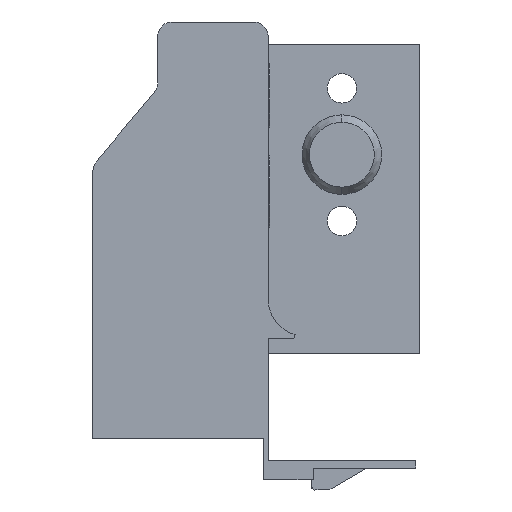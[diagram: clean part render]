
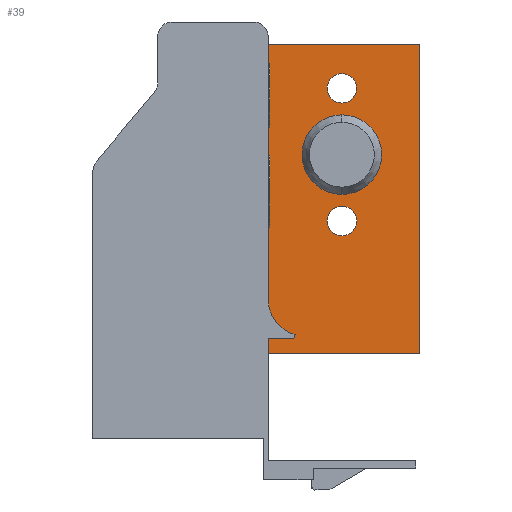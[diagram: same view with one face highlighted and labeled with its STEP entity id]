
A CAD part, front view. The second image highlights one B-rep face of the part: STEP entity #39.
In plain terms, the highlighted planar face has unit normal (0, -1, 0).
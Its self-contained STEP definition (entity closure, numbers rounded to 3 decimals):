
#39 = ADVANCED_FACE ( 'NONE', ( #88, #77, #85, #97 ), #350, .T. ) ;
#77 = FACE_BOUND ( 'NONE', #1929, .T. ) ;
#85 = FACE_BOUND ( 'NONE', #2081, .T. ) ;
#88 = FACE_OUTER_BOUND ( 'NONE', #1930, .T. ) ;
#97 = FACE_BOUND ( 'NONE', #1923, .T. ) ;
#108 = VERTEX_POINT ( 'NONE', #1261 ) ;
#110 = VERTEX_POINT ( 'NONE', #1262 ) ;
#115 = VERTEX_POINT ( 'NONE', #1266 ) ;
#118 = VERTEX_POINT ( 'NONE', #1269 ) ;
#129 = VERTEX_POINT ( 'NONE', #1280 ) ;
#141 = VERTEX_POINT ( 'NONE', #1292 ) ;
#203 = VERTEX_POINT ( 'NONE', #1354 ) ;
#204 = VERTEX_POINT ( 'NONE', #1355 ) ;
#205 = VERTEX_POINT ( 'NONE', #1356 ) ;
#206 = VERTEX_POINT ( 'NONE', #1357 ) ;
#207 = VERTEX_POINT ( 'NONE', #1358 ) ;
#208 = VERTEX_POINT ( 'NONE', #1359 ) ;
#350 = PLANE ( 'NONE',  #1061 ) ;
#353 = CARTESIAN_POINT ( 'NONE',  ( 21.1, 497.2, 20. ) ) ;
#358 = DIRECTION ( 'NONE',  ( 0., -1., 0. ) ) ;
#359 = DIRECTION ( 'NONE',  ( -1., 0., 0. ) ) ;
#380 = LINE ( 'NONE', #1387, #385 ) ;
#385 = VECTOR ( 'NONE', #1389, 1000. ) ;
#433 = CIRCLE ( 'NONE', #1161, 5.4 ) ;
#480 = CIRCLE ( 'NONE', #935, 2. ) ;
#485 = VECTOR ( 'NONE', #1535, 1000. ) ;
#490 = LINE ( 'NONE', #1529, #485 ) ;
#514 = VECTOR ( 'NONE', #1579, 1000. ) ;
#525 = LINE ( 'NONE', #1572, #514 ) ;
#572 = CIRCLE ( 'NONE', #1225, 2. ) ;
#577 = CIRCLE ( 'NONE', #951, 2. ) ;
#581 = CIRCLE ( 'NONE', #968, 5.4 ) ;
#592 = CIRCLE ( 'NONE', #1016, 2. ) ;
#603 = LINE ( 'NONE', #1682, #604 ) ;
#604 = VECTOR ( 'NONE', #1683, 1000. ) ;
#649 = LINE ( 'NONE', #1752, #650 ) ;
#650 = VECTOR ( 'NONE', #1753, 1000. ) ;
#681 = LINE ( 'NONE', #1796, #682 ) ;
#682 = VECTOR ( 'NONE', #1797, 1000. ) ;
#710 = ORIENTED_EDGE ( 'NONE', *, *, #1034, .F. ) ;
#711 = ORIENTED_EDGE ( 'NONE', *, *, #1120, .T. ) ;
#714 = ORIENTED_EDGE ( 'NONE', *, *, #1228, .T. ) ;
#726 = ORIENTED_EDGE ( 'NONE', *, *, #1148, .F. ) ;
#730 = ORIENTED_EDGE ( 'NONE', *, *, #1114, .F. ) ;
#733 = ORIENTED_EDGE ( 'NONE', *, *, #1197, .T. ) ;
#747 = ORIENTED_EDGE ( 'NONE', *, *, #971, .T. ) ;
#752 = ORIENTED_EDGE ( 'NONE', *, *, #1067, .F. ) ;
#769 = ORIENTED_EDGE ( 'NONE', *, *, #1134, .F. ) ;
#806 = ORIENTED_EDGE ( 'NONE', *, *, #1117, .F. ) ;
#836 = ORIENTED_EDGE ( 'NONE', *, *, #923, .T. ) ;
#840 = ORIENTED_EDGE ( 'NONE', *, *, #1020, .F. ) ;
#923 = EDGE_CURVE ( 'NONE', #207, #208, #380, .T. ) ;
#935 = AXIS2_PLACEMENT_3D ( 'NONE', #1513, #1514, #1515 ) ;
#951 = AXIS2_PLACEMENT_3D ( 'NONE', #1636, #1648, #1649 ) ;
#968 = AXIS2_PLACEMENT_3D ( 'NONE', #1650, #1655, #1656 ) ;
#971 = EDGE_CURVE ( 'NONE', #118, #129, #433, .T. ) ;
#1016 = AXIS2_PLACEMENT_3D ( 'NONE', #1647, #1667, #1668 ) ;
#1020 = EDGE_CURVE ( 'NONE', #108, #141, #480, .T. ) ;
#1034 = EDGE_CURVE ( 'NONE', #204, #203, #490, .T. ) ;
#1061 = AXIS2_PLACEMENT_3D ( 'NONE', #353, #358, #359 ) ;
#1067 = EDGE_CURVE ( 'NONE', #206, #205, #525, .T. ) ;
#1114 = EDGE_CURVE ( 'NONE', #115, #110, #572, .T. ) ;
#1117 = EDGE_CURVE ( 'NONE', #141, #108, #577, .T. ) ;
#1120 = EDGE_CURVE ( 'NONE', #129, #118, #581, .T. ) ;
#1134 = EDGE_CURVE ( 'NONE', #110, #115, #592, .T. ) ;
#1148 = EDGE_CURVE ( 'NONE', #207, #206, #603, .T. ) ;
#1161 = AXIS2_PLACEMENT_3D ( 'NONE', #1454, #1455, #1456 ) ;
#1197 = EDGE_CURVE ( 'NONE', #204, #205, #649, .T. ) ;
#1225 = AXIS2_PLACEMENT_3D ( 'NONE', #1639, #1641, #1642 ) ;
#1228 = EDGE_CURVE ( 'NONE', #208, #203, #681, .T. ) ;
#1261 = CARTESIAN_POINT ( 'NONE',  ( 29.5, 497.2, 16. ) ) ;
#1262 = CARTESIAN_POINT ( 'NONE',  ( 33.5, 497.2, 34. ) ) ;
#1266 = CARTESIAN_POINT ( 'NONE',  ( 29.5, 497.2, 34. ) ) ;
#1269 = CARTESIAN_POINT ( 'NONE',  ( 31.5, 497.2, 19.6 ) ) ;
#1280 = CARTESIAN_POINT ( 'NONE',  ( 31.5, 497.2, 30.4 ) ) ;
#1292 = CARTESIAN_POINT ( 'NONE',  ( 33.5, 497.2, 16. ) ) ;
#1354 = CARTESIAN_POINT ( 'NONE',  ( 21.1, 497.2, 40. ) ) ;
#1355 = CARTESIAN_POINT ( 'NONE',  ( 21.1, 497.2, -0.405 ) ) ;
#1356 = CARTESIAN_POINT ( 'NONE',  ( 21.5, 497.2, -0.405 ) ) ;
#1357 = CARTESIAN_POINT ( 'NONE',  ( 21.5, 497.2, -2. ) ) ;
#1358 = CARTESIAN_POINT ( 'NONE',  ( 42., 497.2, -2. ) ) ;
#1359 = CARTESIAN_POINT ( 'NONE',  ( 42., 497.2, 40. ) ) ;
#1387 = CARTESIAN_POINT ( 'NONE',  ( 42., 497.2, 20. ) ) ;
#1389 = DIRECTION ( 'NONE',  ( 0., 0., 1. ) ) ;
#1454 = CARTESIAN_POINT ( 'NONE',  ( 31.5, 497.2, 25. ) ) ;
#1455 = DIRECTION ( 'NONE',  ( 0., 1., 0. ) ) ;
#1456 = DIRECTION ( 'NONE',  ( -1., 0., 0. ) ) ;
#1513 = CARTESIAN_POINT ( 'NONE',  ( 31.5, 497.2, 16. ) ) ;
#1514 = DIRECTION ( 'NONE',  ( 0., -1., 0. ) ) ;
#1515 = DIRECTION ( 'NONE',  ( -1., 0., 0. ) ) ;
#1529 = CARTESIAN_POINT ( 'NONE',  ( 21.1, 497.2, 20. ) ) ;
#1535 = DIRECTION ( 'NONE',  ( 0., 0., 1. ) ) ;
#1572 = CARTESIAN_POINT ( 'NONE',  ( 21.5, 497.2, -64.538 ) ) ;
#1579 = DIRECTION ( 'NONE',  ( 0., 0., 1. ) ) ;
#1636 = CARTESIAN_POINT ( 'NONE',  ( 31.5, 497.2, 16. ) ) ;
#1639 = CARTESIAN_POINT ( 'NONE',  ( 31.5, 497.2, 34. ) ) ;
#1641 = DIRECTION ( 'NONE',  ( 0., -1., 0. ) ) ;
#1642 = DIRECTION ( 'NONE',  ( -1., 0., 0. ) ) ;
#1647 = CARTESIAN_POINT ( 'NONE',  ( 31.5, 497.2, 34. ) ) ;
#1648 = DIRECTION ( 'NONE',  ( 0., -1., 0. ) ) ;
#1649 = DIRECTION ( 'NONE',  ( -1., 0., 0. ) ) ;
#1650 = CARTESIAN_POINT ( 'NONE',  ( 31.5, 497.2, 25. ) ) ;
#1655 = DIRECTION ( 'NONE',  ( 0., 1., 0. ) ) ;
#1656 = DIRECTION ( 'NONE',  ( -1., 0., 0. ) ) ;
#1667 = DIRECTION ( 'NONE',  ( 0., -1., 0. ) ) ;
#1668 = DIRECTION ( 'NONE',  ( -1., 0., 0. ) ) ;
#1682 = CARTESIAN_POINT ( 'NONE',  ( 21.5, 497.2, -2. ) ) ;
#1683 = DIRECTION ( 'NONE',  ( -1., 0., 0. ) ) ;
#1752 = CARTESIAN_POINT ( 'NONE',  ( 21.1, 497.2, -0.405 ) ) ;
#1753 = DIRECTION ( 'NONE',  ( 1., 0., 0. ) ) ;
#1796 = CARTESIAN_POINT ( 'NONE',  ( 21.1, 497.2, 40. ) ) ;
#1797 = DIRECTION ( 'NONE',  ( -1., 0., 0. ) ) ;
#1923 = EDGE_LOOP ( 'NONE', ( #769, #730 ) ) ;
#1929 = EDGE_LOOP ( 'NONE', ( #711, #747 ) ) ;
#1930 = EDGE_LOOP ( 'NONE', ( #733, #752, #726, #836, #714, #710 ) ) ;
#2081 = EDGE_LOOP ( 'NONE', ( #806, #840 ) ) ;
